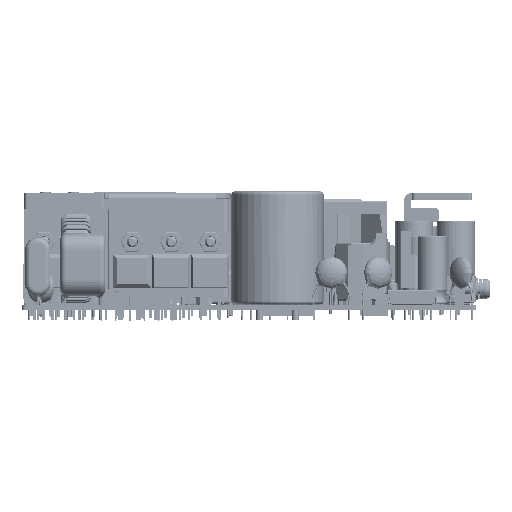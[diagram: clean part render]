
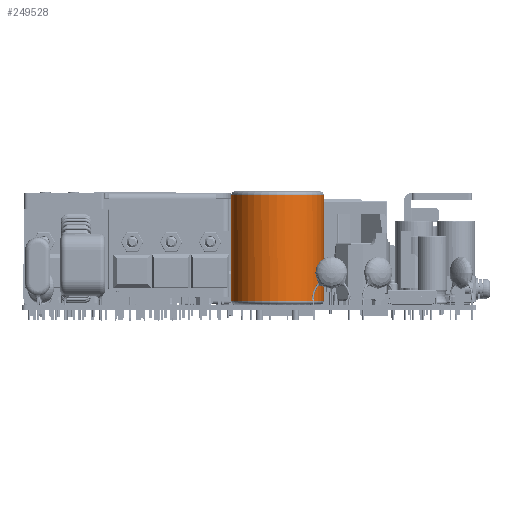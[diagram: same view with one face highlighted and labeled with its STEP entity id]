
A CAD part, front view. The second image highlights one B-rep face of the part: STEP entity #249528.
In plain terms, the highlighted cylindrical face has radius 12.95 mm (diameter 25.9 mm), a partial arc.
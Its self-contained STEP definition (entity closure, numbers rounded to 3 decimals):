
#249048=CARTESIAN_POINT('',(0.,0.,1.));
#249049=DIRECTION('',(0.,0.,1.));
#249050=DIRECTION('',(-1.,0.,0.));
#249051=AXIS2_PLACEMENT_3D('',#249048,#249049,#249050);
#249053=CARTESIAN_POINT('',(0.,0.,1.));
#249054=DIRECTION('',(0.,0.,1.));
#249055=DIRECTION('',(-1.,-0.015,0.));
#249056=AXIS2_PLACEMENT_3D('',#249053,#249054,#249055);
#249063=CARTESIAN_POINT('',(0.,0.,30.7));
#249064=DIRECTION('',(0.,0.,-1.));
#249065=DIRECTION('',(1.,0.,0.));
#249066=AXIS2_PLACEMENT_3D('',#249063,#249064,#249065);
#249068=CARTESIAN_POINT('',(0.,0.,30.7));
#249069=DIRECTION('',(0.,0.,-1.));
#249070=DIRECTION('',(1.,-0.021,0.));
#249071=AXIS2_PLACEMENT_3D('',#249068,#249069,#249070);
#249123=DIRECTION('',(0.,0.,-1.));
#249124=VECTOR('',#249123,29.7);
#249125=CARTESIAN_POINT('',(-12.95,0.,30.7));
#249126=LINE('',#249125,#249124);
#249127=DIRECTION('',(0.,0.,1.));
#249128=VECTOR('',#249127,29.7);
#249129=CARTESIAN_POINT('',(12.95,0.,1.));
#249130=LINE('',#249129,#249128);
#249341=CARTESIAN_POINT('',(12.95,0.,1.));
#249342=VERTEX_POINT('',#249341);
#249344=CARTESIAN_POINT('',(-12.95,0.,1.));
#249346=VERTEX_POINT('',#249344);
#249347=CARTESIAN_POINT('',(-12.949,-0.196,1.));
#249348=VERTEX_POINT('',#249347);
#249349=CARTESIAN_POINT('',(12.947,-0.278,30.7));
#249350=CARTESIAN_POINT('',(-12.95,0.,30.7));
#249351=VERTEX_POINT('',#249349);
#249352=VERTEX_POINT('',#249350);
#249353=CARTESIAN_POINT('',(12.95,0.,30.7));
#249354=VERTEX_POINT('',#249353);
#249511=CARTESIAN_POINT('',(0.,0.,0.));
#249512=DIRECTION('',(0.,0.,-1.));
#249513=DIRECTION('',(-1.,0.,0.));
#249514=AXIS2_PLACEMENT_3D('',#249511,#249512,#249513);
#249515=CYLINDRICAL_SURFACE('',#249514,12.95);
#249517=ORIENTED_EDGE('',*,*,#249516,.F.);
#249519=ORIENTED_EDGE('',*,*,#249518,.F.);
#249521=ORIENTED_EDGE('',*,*,#249520,.F.);
#249522=ORIENTED_EDGE('',*,*,#249498,.F.);
#249523=ORIENTED_EDGE('',*,*,#249496,.F.);
#249525=ORIENTED_EDGE('',*,*,#249524,.F.);
#249526=EDGE_LOOP('',(#249517,#249519,#249521,#249522,#249523,#249525));
#249527=FACE_OUTER_BOUND('',#249526,.F.);
#249052=CIRCLE('',#249051,12.95);
#249057=CIRCLE('',#249056,12.95);
#249067=CIRCLE('',#249066,12.95);
#249072=CIRCLE('',#249071,12.95);
#249496=EDGE_CURVE('',#249346,#249348,#249052,.T.);
#249498=EDGE_CURVE('',#249348,#249342,#249057,.T.);
#249516=EDGE_CURVE('',#249351,#249352,#249072,.T.);
#249518=EDGE_CURVE('',#249354,#249351,#249067,.T.);
#249520=EDGE_CURVE('',#249342,#249354,#249130,.T.);
#249524=EDGE_CURVE('',#249352,#249346,#249126,.T.);
#249528=ADVANCED_FACE('',(#249527),#249515,.T.);
